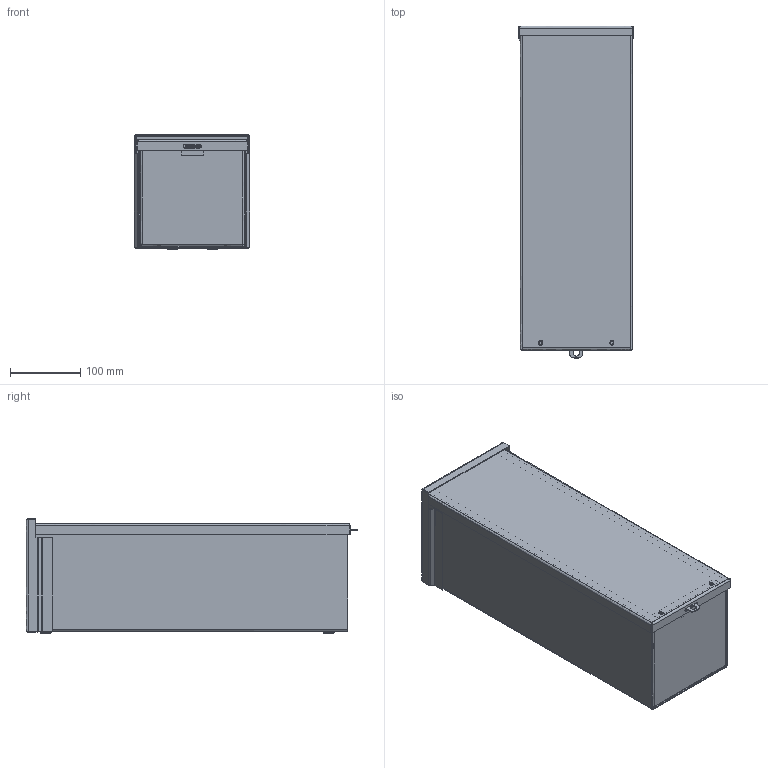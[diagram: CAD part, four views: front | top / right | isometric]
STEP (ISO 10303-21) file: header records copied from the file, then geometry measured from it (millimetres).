
FILE_DESCRIPTION((''),'2;1');
FILE_NAME('D:\scratch\ideas\a18r66nk.stp','2007-01-03T09:09:41',( 'User'),('SDRC'),'I-DEAS Master Series 9','UNIX','Yes');
FILE_SCHEMA(('AUTOMOTIVE_DESIGN { 1 0 10303 214 0 1 1 1 }'));
Length unit declared in the file: inch
Products named in the file (7): 13492; 3rsc_wmt_body_18x6x6_nk; 3rsc_top_6x6; 3rsc_bottom_6x6_nk; 3rsc_body_18x6x6; 3rsc_cover_18x6; 78124001
Assembly tree (6 placements, depth 3):
  13492
    3rsc_wmt_body_18x6x6_nk
      3rsc_top_6x6
      3rsc_bottom_6x6_nk
      3rsc_body_18x6x6
    3rsc_cover_18x6
    78124001
Bounding box: 165.1 x 473.15 x 163.83 mm (x, y, z)
Volume: 525038.6 mm3; surface area: 758956.5 mm2
Topology: 5 solids, 5 shells, 239 faces, 615 edges, 392 vertices
Faces by surface type: bspline 239
Entity records: 7574 total; most frequent: CARTESIAN_POINT 3603, ORIENTED_EDGE 1230, EDGE_CURVE 615, VERTEX_POINT 392, QUASI_UNIFORM_CURVE 308, EDGE_LOOP 273, FACE_OUTER_BOUND 239, ADVANCED_FACE 239
